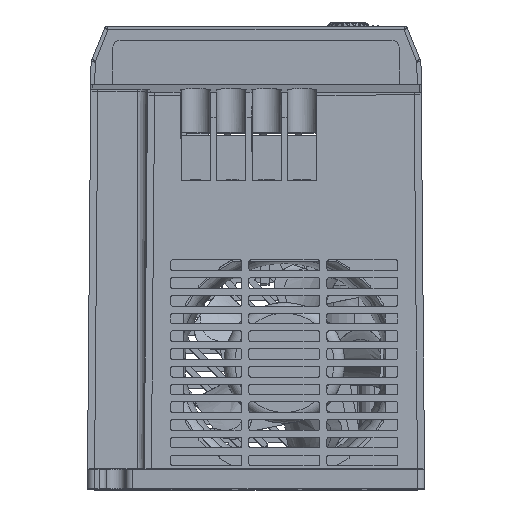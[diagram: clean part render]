
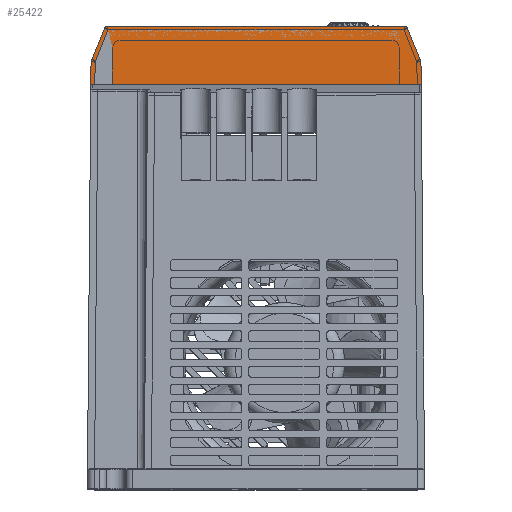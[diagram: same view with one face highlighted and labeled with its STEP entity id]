
A CAD part, top view. The second image highlights one B-rep face of the part: STEP entity #25422.
In plain terms, the highlighted planar face has unit normal (0, 0, 1).
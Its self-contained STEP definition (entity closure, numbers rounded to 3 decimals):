
#5706=CARTESIAN_POINT('',(-41.738,127.,54.));
#5707=DIRECTION('',(0.,0.,-1.));
#5708=DIRECTION('',(-0.926,0.378,0.));
#5709=AXIS2_PLACEMENT_3D('',#5706,#5707,#5708);
#5711=DIRECTION('',(1.,0.,0.));
#5712=VECTOR('',#5711,83.475);
#5713=CARTESIAN_POINT('',(-41.738,128.,54.));
#5714=LINE('',#5713,#5712);
#5715=CARTESIAN_POINT('',(41.738,127.,54.));
#5716=DIRECTION('',(0.,0.,-1.));
#5717=DIRECTION('',(0.,1.,0.));
#5718=AXIS2_PLACEMENT_3D('',#5715,#5716,#5717);
#5720=DIRECTION('',(0.378,-0.926,0.));
#5721=VECTOR('',#5720,10.131);
#5722=CARTESIAN_POINT('',(42.663,127.378,54.));
#5723=LINE('',#5722,#5721);
#5724=DIRECTION('',(0.009,-1.,0.));
#5725=VECTOR('',#5724,6.501);
#5726=CARTESIAN_POINT('',(46.496,118.,54.));
#5727=LINE('',#5726,#5725);
#5728=DIRECTION('',(-1.,0.,0.));
#5729=VECTOR('',#5728,93.106);
#5730=CARTESIAN_POINT('',(46.553,111.5,54.));
#5731=LINE('',#5730,#5729);
#5732=DIRECTION('',(0.009,1.,0.));
#5733=VECTOR('',#5732,6.501);
#5734=CARTESIAN_POINT('',(-46.553,111.5,54.));
#5735=LINE('',#5734,#5733);
#5736=DIRECTION('',(0.378,0.926,0.));
#5737=VECTOR('',#5736,10.131);
#5738=CARTESIAN_POINT('',(-46.496,118.,54.));
#5739=LINE('',#5738,#5737);
#21363=CARTESIAN_POINT('',(-41.738,128.,54.));
#21365=VERTEX_POINT('',#21363);
#21368=CARTESIAN_POINT('',(41.738,128.,54.));
#21369=VERTEX_POINT('',#21368);
#21429=CARTESIAN_POINT('',(-42.663,127.378,54.));
#21431=VERTEX_POINT('',#21429);
#21433=CARTESIAN_POINT('',(-46.496,118.,54.));
#21435=VERTEX_POINT('',#21433);
#21438=CARTESIAN_POINT('',(-46.553,111.5,54.));
#21439=VERTEX_POINT('',#21438);
#21476=CARTESIAN_POINT('',(42.663,127.378,54.));
#21477=VERTEX_POINT('',#21476);
#21478=CARTESIAN_POINT('',(46.496,118.,54.));
#21479=VERTEX_POINT('',#21478);
#21480=CARTESIAN_POINT('',(46.553,111.5,54.));
#21481=VERTEX_POINT('',#21480);
#25403=CARTESIAN_POINT('',(54.5,128.,54.));
#25404=DIRECTION('',(0.,0.,1.));
#25405=DIRECTION('',(0.,-1.,0.));
#25406=AXIS2_PLACEMENT_3D('',#25403,#25404,#25405);
#25407=PLANE('',#25406);
#25408=ORIENTED_EDGE('',*,*,#25316,.T.);
#25409=ORIENTED_EDGE('',*,*,#25233,.T.);
#25411=ORIENTED_EDGE('',*,*,#25410,.T.);
#25413=ORIENTED_EDGE('',*,*,#25412,.T.);
#25415=ORIENTED_EDGE('',*,*,#25414,.T.);
#25417=ORIENTED_EDGE('',*,*,#25416,.T.);
#25418=ORIENTED_EDGE('',*,*,#25344,.T.);
#25419=ORIENTED_EDGE('',*,*,#25333,.T.);
#25420=EDGE_LOOP('',(#25408,#25409,#25411,#25413,#25415,#25417,#25418,#25419));
#25421=FACE_OUTER_BOUND('',#25420,.F.);
#25422=ADVANCED_FACE('',(#25421),#25407,.T.);
#5710=CIRCLE('',#5709,1.);
#5719=CIRCLE('',#5718,1.);
#25233=EDGE_CURVE('',#21365,#21369,#5714,.T.);
#25316=EDGE_CURVE('',#21431,#21365,#5710,.T.);
#25333=EDGE_CURVE('',#21435,#21431,#5739,.T.);
#25344=EDGE_CURVE('',#21439,#21435,#5735,.T.);
#25410=EDGE_CURVE('',#21369,#21477,#5719,.T.);
#25412=EDGE_CURVE('',#21477,#21479,#5723,.T.);
#25414=EDGE_CURVE('',#21479,#21481,#5727,.T.);
#25416=EDGE_CURVE('',#21481,#21439,#5731,.T.);
